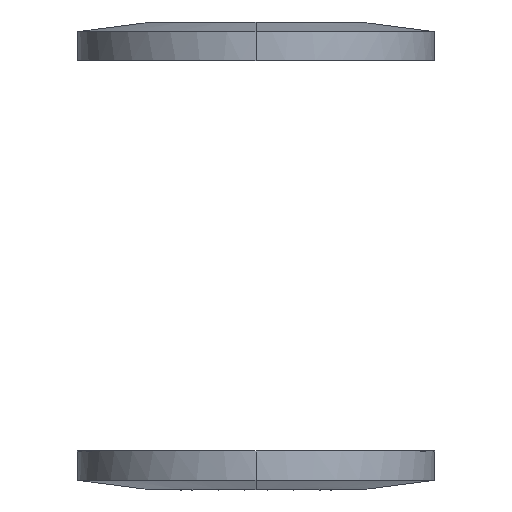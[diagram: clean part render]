
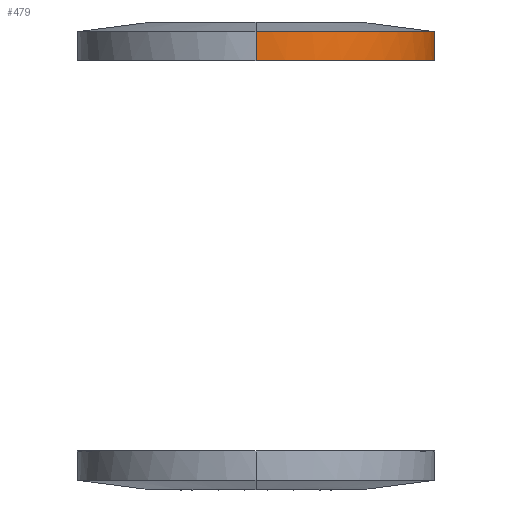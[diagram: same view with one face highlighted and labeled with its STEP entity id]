
A CAD part, front view. The second image highlights one B-rep face of the part: STEP entity #479.
In plain terms, the highlighted free-form (B-spline) face has degree [1, 2] with [2, 9] control points.
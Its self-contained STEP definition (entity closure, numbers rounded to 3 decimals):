
#479=ADVANCED_FACE('',(#519),#1879,.T.);
#519=FACE_OUTER_BOUND('',#559,.T.);
#559=EDGE_LOOP('',(#605,#606,#607,#608));
#605=ORIENTED_EDGE('',*,*,#1325,.T.);
#606=ORIENTED_EDGE('',*,*,#1326,.T.);
#607=ORIENTED_EDGE('',*,*,#1327,.T.);
#608=ORIENTED_EDGE('',*,*,#1328,.T.);
#761=(
BOUNDED_CURVE()
B_SPLINE_CURVE(2,(#2096,#2097,#2098,#2099,#2100),.UNSPECIFIED.,.F.,.F.)
B_SPLINE_CURVE_WITH_KNOTS((3,2,3),(1.,2.571,4.142),
 .UNSPECIFIED.)
CURVE()
GEOMETRIC_REPRESENTATION_ITEM()
RATIONAL_B_SPLINE_CURVE((1.,0.707,1.,0.707,1.))
REPRESENTATION_ITEM('')
);
#762=(
BOUNDED_CURVE()
B_SPLINE_CURVE(2,(#2107,#2108,#2109,#2110,#2111),.UNSPECIFIED.,.F.,.F.)
B_SPLINE_CURVE_WITH_KNOTS((3,2,3),(5.142,6.712,8.283),
 .UNSPECIFIED.)
CURVE()
GEOMETRIC_REPRESENTATION_ITEM()
RATIONAL_B_SPLINE_CURVE((1.,0.707,1.,0.707,1.))
REPRESENTATION_ITEM('')
);
#845=PCURVE('',#1879,#1005);
#846=PCURVE('',#1879,#1006);
#847=PCURVE('',#1879,#1007);
#848=PCURVE('',#1879,#1008);
#1005=DEFINITIONAL_REPRESENTATION('',(#1490),#3747);
#1006=DEFINITIONAL_REPRESENTATION('',(#1491),#3747);
#1007=DEFINITIONAL_REPRESENTATION('',(#1493),#3747);
#1008=DEFINITIONAL_REPRESENTATION('',(#1494),#3747);
#1165=SURFACE_CURVE('',#1489,(#845),.PCURVE_S1.);
#1166=SURFACE_CURVE('',#761,(#846),.PCURVE_S1.);
#1167=SURFACE_CURVE('',#1492,(#847),.PCURVE_S1.);
#1168=SURFACE_CURVE('',#762,(#848),.PCURVE_S1.);
#1325=EDGE_CURVE('',#1725,#1726,#1165,.T.);
#1326=EDGE_CURVE('',#1726,#1727,#1166,.T.);
#1327=EDGE_CURVE('',#1727,#1728,#1167,.T.);
#1328=EDGE_CURVE('',#1728,#1725,#1168,.T.);
#1489=B_SPLINE_CURVE_WITH_KNOTS('',1,(#2092,#2093),.UNSPECIFIED.,.F.,.F.,
(2,2),(0.,1.),.UNSPECIFIED.);
#1490=B_SPLINE_CURVE_WITH_KNOTS('',1,(#2094,#2095),.UNSPECIFIED.,.F.,.F.,
(2,2),(0.,1.),.UNSPECIFIED.);
#1491=B_SPLINE_CURVE_WITH_KNOTS('',1,(#2101,#2102),.UNSPECIFIED.,.F.,.F.,
(2,2),(1.,4.142),.UNSPECIFIED.);
#1492=B_SPLINE_CURVE_WITH_KNOTS('',1,(#2103,#2104),.UNSPECIFIED.,.F.,.F.,
(2,2),(4.142,5.142),.UNSPECIFIED.);
#1493=B_SPLINE_CURVE_WITH_KNOTS('',1,(#2105,#2106),.UNSPECIFIED.,.F.,.F.,
(2,2),(4.142,5.142),.UNSPECIFIED.);
#1494=B_SPLINE_CURVE_WITH_KNOTS('',1,(#2112,#2113),.UNSPECIFIED.,.F.,.F.,
(2,2),(5.142,8.283),.UNSPECIFIED.);
#1725=VERTEX_POINT('',#2088);
#1726=VERTEX_POINT('',#2089);
#1727=VERTEX_POINT('',#2090);
#1728=VERTEX_POINT('',#2091);
#1879=(
BOUNDED_SURFACE()
B_SPLINE_SURFACE(1,2,((#2070,#2071,#2072,#2073,#2074,#2075,#2076,#2077,#2078),
(#2079,#2080,#2081,#2082,#2083,#2084,#2085,#2086,#2087)),.UNSPECIFIED.,.F.,
 .F.,.F.)
B_SPLINE_SURFACE_WITH_KNOTS((2,2),(3,2,2,2,3),(0.,1.),(0.,1.571,
3.142,4.712,6.283),.UNSPECIFIED.)
GEOMETRIC_REPRESENTATION_ITEM()
RATIONAL_B_SPLINE_SURFACE(((1.,0.707,1.,0.707,1.,
0.707,1.,0.707,1.),(1.,0.707,1.,0.707,
1.,0.707,1.,0.707,1.)))
REPRESENTATION_ITEM('')
SURFACE()
);
#2070=CARTESIAN_POINT('',(-0.45,2.75,0.));
#2071=CARTESIAN_POINT('',(-0.45,2.75,-2.75));
#2072=CARTESIAN_POINT('',(-0.45,0.,-2.75));
#2073=CARTESIAN_POINT('',(-0.45,-2.75,-2.75));
#2074=CARTESIAN_POINT('',(-0.45,-2.75,0.));
#2075=CARTESIAN_POINT('',(-0.45,-2.75,2.75));
#2076=CARTESIAN_POINT('',(-0.45,0.,2.75));
#2077=CARTESIAN_POINT('',(-0.45,2.75,2.75));
#2078=CARTESIAN_POINT('',(-0.45,2.75,0.));
#2079=CARTESIAN_POINT('',(0.,2.75,0.));
#2080=CARTESIAN_POINT('',(0.,2.75,-2.75));
#2081=CARTESIAN_POINT('',(0.,0.,-2.75));
#2082=CARTESIAN_POINT('',(0.,-2.75,-2.75));
#2083=CARTESIAN_POINT('',(0.,-2.75,0.));
#2084=CARTESIAN_POINT('',(0.,-2.75,2.75));
#2085=CARTESIAN_POINT('',(0.,0.,2.75));
#2086=CARTESIAN_POINT('',(0.,2.75,2.75));
#2087=CARTESIAN_POINT('',(0.,2.75,0.));
#2088=CARTESIAN_POINT('',(-0.45,2.75,0.));
#2089=CARTESIAN_POINT('',(0.,2.75,0.));
#2090=CARTESIAN_POINT('',(0.,-2.75,0.));
#2091=CARTESIAN_POINT('',(-0.45,-2.75,0.));
#2092=CARTESIAN_POINT('',(-0.45,2.75,0.));
#2093=CARTESIAN_POINT('',(0.,2.75,0.));
#2094=CARTESIAN_POINT('',(0.,0.));
#2095=CARTESIAN_POINT('',(1.,0.));
#2096=CARTESIAN_POINT('',(0.,2.75,0.));
#2097=CARTESIAN_POINT('',(0.,2.75,-2.75));
#2098=CARTESIAN_POINT('',(0.,0.,-2.75));
#2099=CARTESIAN_POINT('',(0.,-2.75,-2.75));
#2100=CARTESIAN_POINT('',(0.,-2.75,0.));
#2101=CARTESIAN_POINT('',(1.,0.));
#2102=CARTESIAN_POINT('',(1.,3.142));
#2103=CARTESIAN_POINT('',(0.,-2.75,0.));
#2104=CARTESIAN_POINT('',(-0.45,-2.75,0.));
#2105=CARTESIAN_POINT('',(1.,3.142));
#2106=CARTESIAN_POINT('',(0.,3.142));
#2107=CARTESIAN_POINT('',(-0.45,-2.75,0.));
#2108=CARTESIAN_POINT('',(-0.45,-2.75,-2.75));
#2109=CARTESIAN_POINT('',(-0.45,0.,-2.75));
#2110=CARTESIAN_POINT('',(-0.45,2.75,-2.75));
#2111=CARTESIAN_POINT('',(-0.45,2.75,0.));
#2112=CARTESIAN_POINT('',(0.,3.142));
#2113=CARTESIAN_POINT('',(0.,0.));
#3747=(
GEOMETRIC_REPRESENTATION_CONTEXT(2)
PARAMETRIC_REPRESENTATION_CONTEXT()
REPRESENTATION_CONTEXT('pspace','')
);
